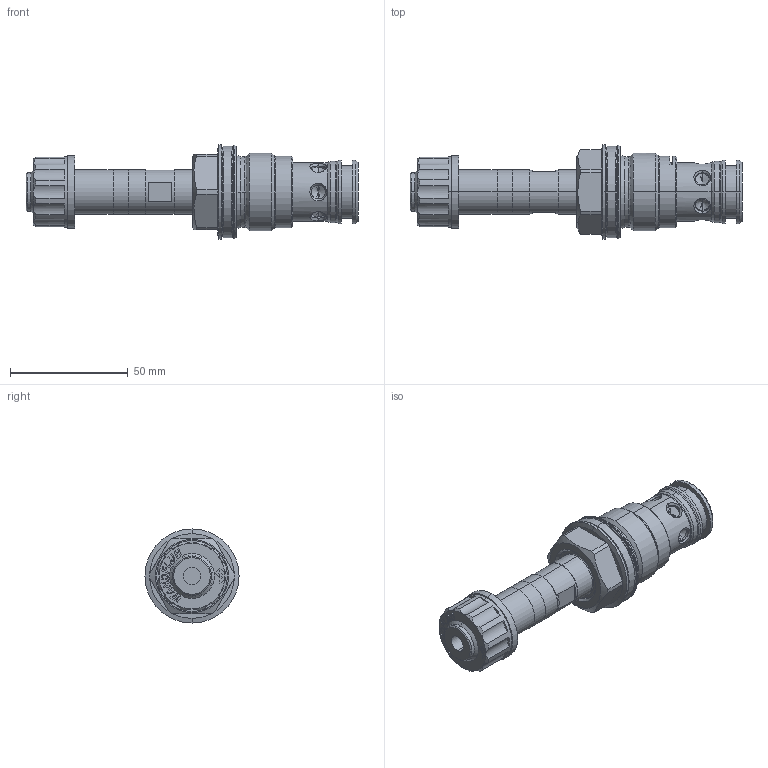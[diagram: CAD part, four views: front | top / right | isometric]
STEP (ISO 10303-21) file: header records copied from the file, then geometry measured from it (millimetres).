
FILE_DESCRIPTION (( 'STEP AP214' ), '1' );
FILE_NAME ('BVPPM33.STEP', '2014-03-19T09:53:04', ( '' ), ( '' ), 'SwSTEP 2.0', 'SolidWorks 2012', '' );
FILE_SCHEMA (( 'AUTOMOTIVE_DESIGN' ));
Length unit declared in the file: millimetre
Products named in the file (1): BVPPM33
Bounding box: 141.1 x 40 x 40 mm (x, y, z)
Volume: 73681.1 mm3; surface area: 25827.3 mm2
Topology: 5 solids, 7 shells, 470 faces, 1087 edges, 653 vertices
Faces by surface type: plane 171, cylinder 127, cone 95, torus 49, bspline 28
Entity records: 20519 total; most frequent: CARTESIAN_POINT 4689, DIRECTION 2255, ORIENTED_EDGE 2142, EDGE_CURVE 1071, AXIS2_PLACEMENT_3D 857, VERTEX_POINT 653, LINE 541, VECTOR 541
